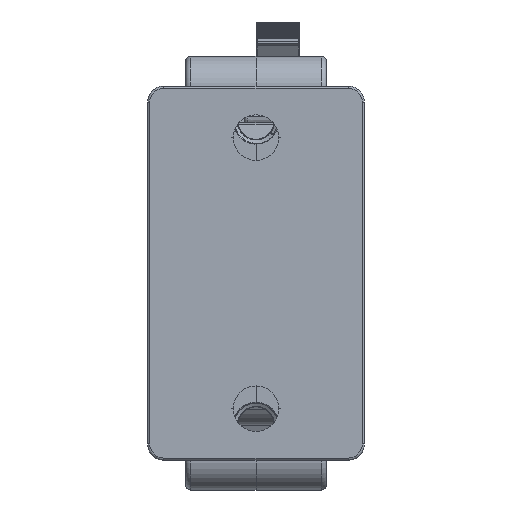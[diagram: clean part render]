
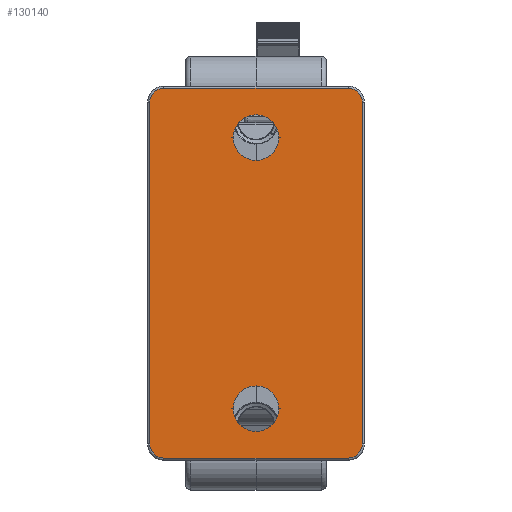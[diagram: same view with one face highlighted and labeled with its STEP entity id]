
A CAD part, left-side view. The second image highlights one B-rep face of the part: STEP entity #130140.
In plain terms, the highlighted planar face has unit normal (-1, 0, 0) as drawn and (0, -1, 0) by its records, which use the part's own axes.
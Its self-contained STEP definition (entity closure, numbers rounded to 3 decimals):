
#129175=CARTESIAN_POINT('',(0.,0.,-12.5));
#129176=DIRECTION('',(0.,1.,0.));
#129177=DIRECTION('',(1.,0.,0.));
#129178=AXIS2_PLACEMENT_3D('',#129175,#129176,#129177);
#129183=CARTESIAN_POINT('',(0.,0.,-12.5));
#129184=DIRECTION('',(0.,1.,0.));
#129185=DIRECTION('',(-1.,0.,0.));
#129186=AXIS2_PLACEMENT_3D('',#129183,#129184,#129185);
#129191=CARTESIAN_POINT('',(0.,0.,12.5));
#129192=DIRECTION('',(0.,1.,0.));
#129193=DIRECTION('',(1.,0.,0.));
#129194=AXIS2_PLACEMENT_3D('',#129191,#129192,#129193);
#129199=CARTESIAN_POINT('',(0.,0.,12.5));
#129200=DIRECTION('',(0.,1.,0.));
#129201=DIRECTION('',(-1.,0.,0.));
#129202=AXIS2_PLACEMENT_3D('',#129199,#129200,#129201);
#129207=CARTESIAN_POINT('',(8.5,0.,-15.75));
#129208=DIRECTION('',(0.,-1.,0.));
#129209=DIRECTION('',(0.,0.,-1.));
#129210=AXIS2_PLACEMENT_3D('',#129207,#129208,#129209);
#129215=DIRECTION('',(1.,0.,0.));
#129216=VECTOR('',#129215,17.);
#129217=CARTESIAN_POINT('',(-8.5,0.,-17.05));
#129218=LINE('',#129217,#129216);
#129222=CARTESIAN_POINT('',(-8.5,0.,-15.75));
#129223=DIRECTION('',(0.,-1.,0.));
#129224=DIRECTION('',(-1.,0.,0.));
#129225=AXIS2_PLACEMENT_3D('',#129222,#129223,#129224);
#129230=DIRECTION('',(0.,0.,-1.));
#129231=VECTOR('',#129230,31.5);
#129232=CARTESIAN_POINT('',(-9.8,0.,15.75));
#129233=LINE('',#129232,#129231);
#129237=CARTESIAN_POINT('',(-8.5,0.,15.75));
#129238=DIRECTION('',(0.,-1.,0.));
#129239=DIRECTION('',(0.,0.,1.));
#129240=AXIS2_PLACEMENT_3D('',#129237,#129238,#129239);
#129245=DIRECTION('',(-1.,0.,0.));
#129246=VECTOR('',#129245,17.);
#129247=CARTESIAN_POINT('',(8.5,0.,17.05));
#129248=LINE('',#129247,#129246);
#129252=CARTESIAN_POINT('',(8.5,0.,15.75));
#129253=DIRECTION('',(0.,-1.,0.));
#129254=DIRECTION('',(1.,0.,0.));
#129255=AXIS2_PLACEMENT_3D('',#129252,#129253,#129254);
#129260=DIRECTION('',(0.,0.,1.));
#129261=VECTOR('',#129260,31.5);
#129262=CARTESIAN_POINT('',(9.8,0.,-15.75));
#129263=LINE('',#129262,#129261);
#129985=CARTESIAN_POINT('',(2.1,0.,-12.5));
#129986=CARTESIAN_POINT('',(-2.1,0.,-12.5));
#129987=VERTEX_POINT('',#129985);
#129988=VERTEX_POINT('',#129986);
#129989=CARTESIAN_POINT('',(2.1,0.,12.5));
#129990=CARTESIAN_POINT('',(-2.1,0.,12.5));
#129991=VERTEX_POINT('',#129989);
#129992=VERTEX_POINT('',#129990);
#130057=CARTESIAN_POINT('',(8.5,0.,-17.05));
#130058=CARTESIAN_POINT('',(9.8,0.,-15.75));
#130059=VERTEX_POINT('',#130057);
#130060=VERTEX_POINT('',#130058);
#130065=CARTESIAN_POINT('',(9.8,0.,15.75));
#130066=VERTEX_POINT('',#130065);
#130069=CARTESIAN_POINT('',(8.5,0.,17.05));
#130070=VERTEX_POINT('',#130069);
#130073=CARTESIAN_POINT('',(-8.5,0.,17.05));
#130074=VERTEX_POINT('',#130073);
#130077=CARTESIAN_POINT('',(-9.8,0.,15.75));
#130078=VERTEX_POINT('',#130077);
#130081=CARTESIAN_POINT('',(-9.8,0.,-15.75));
#130082=VERTEX_POINT('',#130081);
#130085=CARTESIAN_POINT('',(-8.5,0.,-17.05));
#130086=VERTEX_POINT('',#130085);
#130105=CARTESIAN_POINT('',(0.,0.,0.));
#130106=DIRECTION('',(0.,1.,0.));
#130107=DIRECTION('',(1.,0.,0.));
#130108=AXIS2_PLACEMENT_3D('',#130105,#130106,#130107);
#130109=PLANE('',#130108);
#130111=ORIENTED_EDGE('',*,*,#130110,.F.);
#130113=ORIENTED_EDGE('',*,*,#130112,.F.);
#130115=ORIENTED_EDGE('',*,*,#130114,.F.);
#130117=ORIENTED_EDGE('',*,*,#130116,.F.);
#130119=ORIENTED_EDGE('',*,*,#130118,.F.);
#130121=ORIENTED_EDGE('',*,*,#130120,.F.);
#130123=ORIENTED_EDGE('',*,*,#130122,.F.);
#130125=ORIENTED_EDGE('',*,*,#130124,.F.);
#130126=EDGE_LOOP('',(#130111,#130113,#130115,#130117,#130119,#130121,#130123,
#130125));
#130127=FACE_OUTER_BOUND('',#130126,.F.);
#130129=ORIENTED_EDGE('',*,*,#130128,.F.);
#130131=ORIENTED_EDGE('',*,*,#130130,.F.);
#130132=EDGE_LOOP('',(#130129,#130131));
#130133=FACE_BOUND('',#130132,.F.);
#130135=ORIENTED_EDGE('',*,*,#130134,.F.);
#130137=ORIENTED_EDGE('',*,*,#130136,.F.);
#130138=EDGE_LOOP('',(#130135,#130137));
#130139=FACE_BOUND('',#130138,.F.);
#130140=ADVANCED_FACE('',(#130127,#130133,#130139),#130109,.F.);
#129179=CIRCLE('',#129178,2.1);
#129187=CIRCLE('',#129186,2.1);
#129195=CIRCLE('',#129194,2.1);
#129203=CIRCLE('',#129202,2.1);
#129211=CIRCLE('',#129210,1.3);
#129226=CIRCLE('',#129225,1.3);
#129241=CIRCLE('',#129240,1.3);
#129256=CIRCLE('',#129255,1.3);
#130110=EDGE_CURVE('',#130059,#130060,#129211,.T.);
#130112=EDGE_CURVE('',#130086,#130059,#129218,.T.);
#130114=EDGE_CURVE('',#130082,#130086,#129226,.T.);
#130116=EDGE_CURVE('',#130078,#130082,#129233,.T.);
#130118=EDGE_CURVE('',#130074,#130078,#129241,.T.);
#130120=EDGE_CURVE('',#130070,#130074,#129248,.T.);
#130122=EDGE_CURVE('',#130066,#130070,#129256,.T.);
#130124=EDGE_CURVE('',#130060,#130066,#129263,.T.);
#130128=EDGE_CURVE('',#129991,#129992,#129195,.T.);
#130130=EDGE_CURVE('',#129992,#129991,#129203,.T.);
#130134=EDGE_CURVE('',#129987,#129988,#129179,.T.);
#130136=EDGE_CURVE('',#129988,#129987,#129187,.T.);
